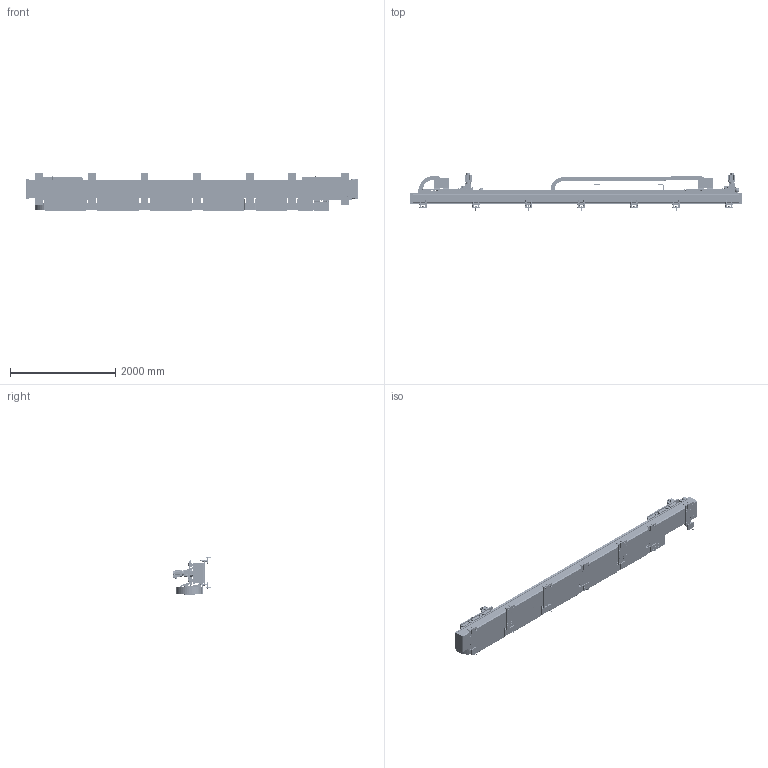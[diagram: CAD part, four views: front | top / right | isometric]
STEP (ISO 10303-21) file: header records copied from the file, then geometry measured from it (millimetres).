
FILE_DESCRIPTION (( 'STEP AP214' ), '1' );
FILE_NAME ('306545-500-1(TM2050_5000TR).STEP', '2024-05-13T08:07:24', ( '' ), ( '' ), 'SwSTEP 2.0', 'SolidWorks 2021', '' );
FILE_SCHEMA (( 'AUTOMOTIVE_DESIGN' ));
Length unit declared in the file: millimetre
Products named in the file (104): 306535-123-1(ケーブルサポート); Cap Screw(W)_M6X60_M6-40; M5-5(SET(ギザ先)); 306535-118-0(ケーブルレール(600L) Assy); 306535-117-0(固定端ブラケット); ｺﾝﾌﾟﾚｯｼｮンﾌﾞｯｼﾝｸﾞ(106253); 305635-118-0(搬送用金具(A)); HXPP3-STU-M4-10; Cap Screw_M8X15_M8-15; ｺﾝﾌﾟﾚｯｼｮンｽﾘｰﾌﾞ(106254); 306545-100-0-1_可動部 Assy_奥側; 306545-105-0(ピニオンギア); 306545-108-0(アジャスターブラケット); hexa bolt M8-50; Cap Screw_M5X10_M5-12; 302053-126-2; 306535-125-0(ブラケットスペーサ); 306535-113-0(原点ブロック); 306535-122-0(補強ブラケット); SHS45LV(グリスニップル・集中給油)_継手(LF-C)L側 N(1-8)-75L L(1-8)逆; 302935-102-0(近接ブラケット); NUT(M8)_type2; 306545-500-1(TM2050_5000TR); SRFD2.5-1500; Cap Screw(SW_W)_M4X10_M4-10; 305795-115-0(ラックスペーサ(B)); 306535-114-0(原点調整治具 Assy); MDMF202L1C6; SW20; 306535-119-0(ケーブルレール(800L)); 306055-103-0(LMガイドストッパ)_Ｌ型（4点止め）; Cap Screw(SW,W)_M8X25_M8-25; 306535-118-0(ケーブルレール(600L)); 僫僀儘儞僠儏僂僽(冇4x冇2.5); 306545-102-1(スライドベース); LKC（クレードル）; TKC64H50W110R200-87L(306545-500-0)_5000TR; 306535-114-0(原点調整治具); TKC64H50W110R200-87L(306545-500-0); 306545-511-0(走行フレーム(5000TR))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
Assembly tree (505 placements, depth 4):
  306545-500-1(TM2050_5000TR)
    306545-511-0(走行フレーム(5000TR))
    306545-100-0-1_可動部 Assy_奥側  x2
      306545-102-1(スライドベース)
      303156-106-0(位置決めﾋﾟﾝ)
      306545-100-0_モータ Assy
        303825-109-1(モータブラケット)
        VRXF-9E-K-28HA22
        MDMF202L1C6
        306545-105-0(ピニオンギア)
        306545-106-0(ギヤプレート)
        Cap Screw_M8X25_M8-25  x4
        Cap Screw_M10X25_M10-25  x4
        M5-5(SET(ギザ先))  x2
        Cap Screw_M10X20_M10-20
      306055-103-0(LMガイドストッパ)_Ｌ型（4点止め）
      302935-102-0(近接ブラケット)
      SHS45LV(グリスニップル・集中給油)_継手(LF-C)R側
        SHS45LV_集中給油ベース
        LF-C(THK)
        PD4
        ｺﾝﾌﾟﾚｯｼｮンﾌﾞｯｼﾝｸﾞ(106253)
        ｺﾝﾌﾟﾚｯｼｮンｽﾘｰﾌﾞ(106254)
        僫僀儘儞僠儏僂僽(冇4x冇2.5)
      SHS45LV(グリスニップル・集中給油)_継手(LF-C)L側 N(1-8)-75L L(1-8)逆
        SHS45LV_集中給油ベース
        LF-C(THK)
        PD4
        ｺﾝﾌﾟﾚｯｼｮンﾌﾞｯｼﾝｸﾞ(106253)
        ｺﾝﾌﾟﾚｯｼｮンｽﾘｰﾌﾞ(106254)
        僫僀儘儞僠儏僂僽(冇4x冇2.5)
        LongN-(1-8)-75L
        L-(1-8)
      SHS45LV(グリスニップル・集中給油)_継手(LF-C)L側
        SHS45LV_集中給油ベース
        LF-C(THK)
        PD4
        ｺﾝﾌﾟﾚｯｼｮンﾌﾞｯｼﾝｸﾞ(106253)
        ｺﾝﾌﾟﾚｯｼｮンｽﾘｰﾌﾞ(106254)
        僫僀儘儞僠儏僂僽(冇4x冇2.5)
      SHS45LV(グリスニップル・集中給油)_継手(LF-C)L側 N(1-8)-75L L(1-8)
        SHS45LV_集中給油ベース
        LF-C(THK)
        PD4
        ｺﾝﾌﾟﾚｯｼｮンﾌﾞｯｼﾝｸﾞ(106253)
        ｺﾝﾌﾟﾚｯｼｮンｽﾘｰﾌﾞ(106254)
        僫僀儘儞僠儏僂僽(冇4x冇2.5)
        LongN-(1-8)-75L
        L-(1-8)
      NUT(M8)_type2
      TL-Q5MC(配線有・横)
      ｽﾄﾚｰﾄｱﾀﾞﾌﾟﾀ(106001)_L=18
      ｴﾙﾎﾞｱﾀﾞﾌﾟﾀ(106029)_デフォルト
      ｺﾝﾌﾟﾚｯｼｮンﾌﾞｯｼﾝｸﾞ(106253)
      hexa bolt M8-50
      Cap Screw(SW_W)_M10X40_M10-40
      Cap Screw_M6X10_M6-10
      Cap Screw_M10X20_M10-20
      AB-4N(ナイロンクリップ)
      LKC（クレードル）
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Bounding box: 6296 x 731 x 732.5 mm (x, y, z)
Volume: 246665906.1 mm3; surface area: 51100499.2 mm2
Topology: 821 solids, 849 shells, 19830 faces, 46971 edges, 29116 vertices
Faces by surface type: plane 9110, cylinder 7392, cone 2182, bspline 1044, torus 86, sphere 16
Full cylindrical faces by diameter (mm): 102 x2
Entity records: 210974 total; most frequent: CARTESIAN_POINT 39363, DIRECTION 32162, ORIENTED_EDGE 28654, EDGE_CURVE 14340, AXIS2_PLACEMENT_3D 12495, VERTEX_POINT 9268, EDGE_LOOP 7775, VECTOR 7172
